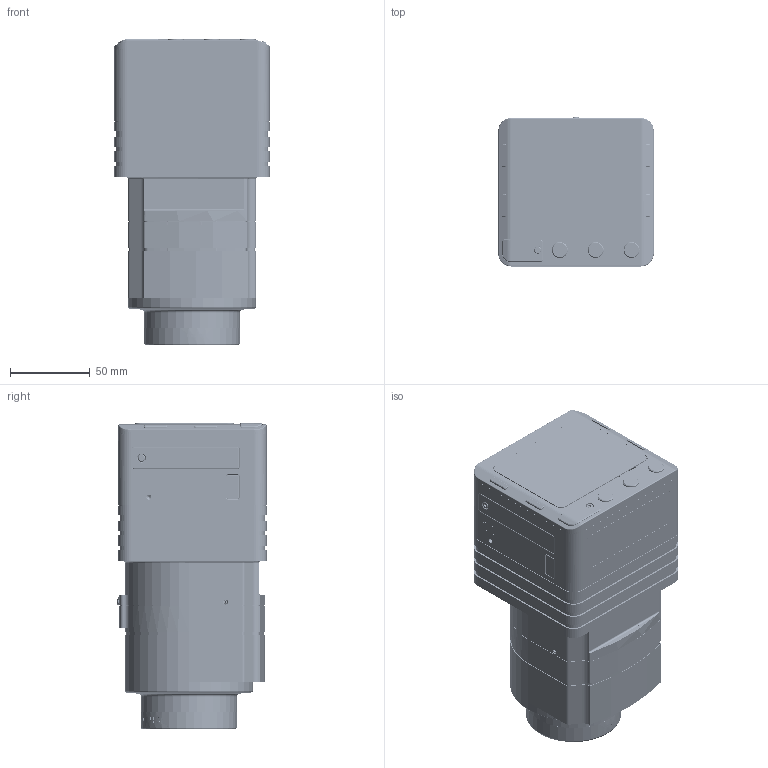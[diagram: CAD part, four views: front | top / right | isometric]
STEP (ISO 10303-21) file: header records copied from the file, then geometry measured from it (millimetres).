
FILE_DESCRIPTION (( 'STEP AP203' ), '1' );
FILE_NAME ('Empty iXU-R with 150mm lens -without usb.STEP', '2016-12-14T14:33:27', ( '' ), ( '' ), 'SwSTEP 2.0', 'SolidWorks 2016', '' );
FILE_SCHEMA (( 'CONFIG_CONTROL_DESIGN' ));
Length unit declared in the file: millimetre
Products named in the file (3): empty 150mm; Empty iXU-R with 150mm lens -without usb; Empty iXU-R without lens
Assembly tree (2 placements, depth 2):
  Empty iXU-R with 150mm lens -without usb
    Empty iXU-R without lens
    empty 150mm
Bounding box: 97.4 x 93.51 x 192.5 mm (x, y, z)
Volume: 71262.7 mm3; surface area: 258588.3 mm2
Topology: 6 solids, 47 shells, 4835 faces, 13077 edges, 8496 vertices
Faces by surface type: cylinder 2046, plane 1651, bspline 713, cone 363, torus 48, sphere 14
Entity records: 180553 total; most frequent: CARTESIAN_POINT 64904, ORIENTED_EDGE 25872, DIRECTION 21248, EDGE_CURVE 12940, VERTEX_POINT 8480, AXIS2_PLACEMENT_3D 7657, VECTOR 5934, LINE 5934
